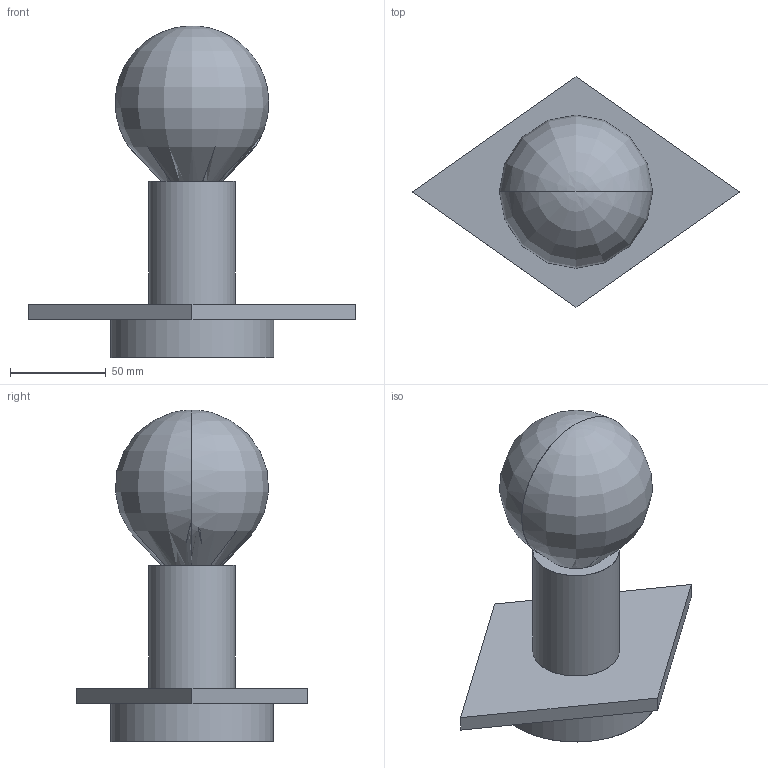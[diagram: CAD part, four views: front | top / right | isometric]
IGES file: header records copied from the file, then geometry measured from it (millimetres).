
Global section: file name: /Users/064_p/Desktop/3d data_02/ILKW_TEACUP_4A_Table_3D.igs; native system: Rhinoceros ( Jul  7 2025 ); preprocessor: Trout Lake IGES 012 Jul  7 2025; date: 260828.085811; units: millimetre
Bounding box: 170 x 120 x 172.93 mm (x, y, z)
Surface area: 55957.5 mm2 (no closed solid volume)
Topology: 0 solids, 0 shells, 12 faces, 58 edges, 54 vertices
Faces by surface type: bspline 12
